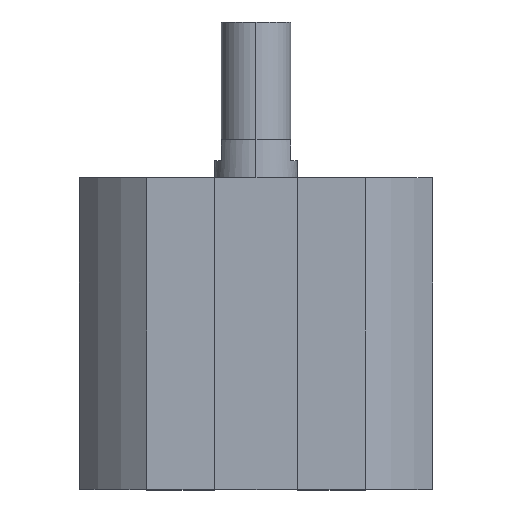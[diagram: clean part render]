
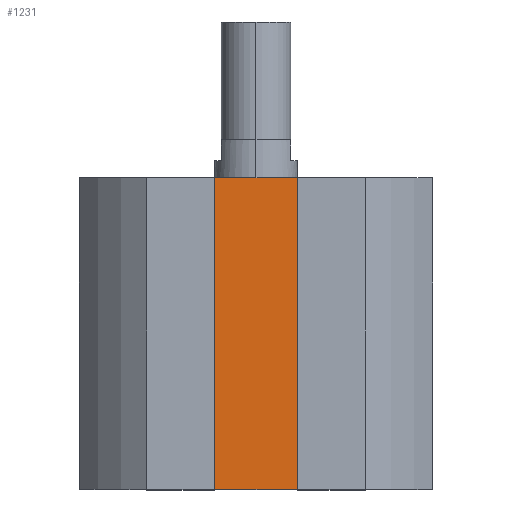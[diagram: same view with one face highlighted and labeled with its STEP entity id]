
A CAD part, top view. The second image highlights one B-rep face of the part: STEP entity #1231.
In plain terms, the highlighted planar face has unit normal (0, 0, 1).
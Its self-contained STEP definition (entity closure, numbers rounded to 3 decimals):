
#131 = VECTOR ( 'NONE', #2257, 1000. ) ;
#155 = DIRECTION ( 'NONE',  ( 1., 0., 0. ) ) ;
#193 = CARTESIAN_POINT ( 'NONE',  ( -7.7, 0., 17. ) ) ;
#255 = ORIENTED_EDGE ( 'NONE', *, *, #2084, .F. ) ;
#332 = DIRECTION ( 'NONE',  ( 1., 0., 0. ) ) ;
#493 = VECTOR ( 'NONE', #1424, 1000. ) ;
#510 = DIRECTION ( 'NONE',  ( 1., 0., 0. ) ) ;
#712 = VERTEX_POINT ( 'NONE', #2530 ) ;
#756 = LINE ( 'NONE', #823, #1437 ) ;
#823 = CARTESIAN_POINT ( 'NONE',  ( 0., -45., 17. ) ) ;
#906 = LINE ( 'NONE', #1286, #1438 ) ;
#909 = VERTEX_POINT ( 'NONE', #2807 ) ;
#964 = CARTESIAN_POINT ( 'NONE',  ( 7.7, -45., 17. ) ) ;
#971 = VERTEX_POINT ( 'NONE', #964 ) ;
#1033 = ORIENTED_EDGE ( 'NONE', *, *, #2074, .F. ) ;
#1231 = ADVANCED_FACE ( 'NONE', ( #2817 ), #1695, .T. ) ;
#1249 = EDGE_CURVE ( 'NONE', #712, #971, #756, .T. ) ;
#1286 = CARTESIAN_POINT ( 'NONE',  ( 0., 0., 17. ) ) ;
#1424 = DIRECTION ( 'NONE',  ( 0., 1., 0. ) ) ;
#1437 = VECTOR ( 'NONE', #332, 1000. ) ;
#1438 = VECTOR ( 'NONE', #155, 1000. ) ;
#1544 = ORIENTED_EDGE ( 'NONE', *, *, #1249, .T. ) ;
#1629 = VERTEX_POINT ( 'NONE', #193 ) ;
#1695 = PLANE ( 'NONE',  #2003 ) ;
#1774 = CARTESIAN_POINT ( 'NONE',  ( -7.7, -45., 17. ) ) ;
#1900 = ORIENTED_EDGE ( 'NONE', *, *, #2923, .T. ) ;
#1903 = CARTESIAN_POINT ( 'NONE',  ( 0., -45., 17. ) ) ;
#1911 = LINE ( 'NONE', #2587, #493 ) ;
#1922 = EDGE_LOOP ( 'NONE', ( #1033, #255, #1544, #1900 ) ) ;
#1988 = LINE ( 'NONE', #1774, #131 ) ;
#2003 = AXIS2_PLACEMENT_3D ( 'NONE', #1903, #2623, #510 ) ;
#2074 = EDGE_CURVE ( 'NONE', #1629, #909, #906, .T. ) ;
#2084 = EDGE_CURVE ( 'NONE', #712, #1629, #1988, .T. ) ;
#2257 = DIRECTION ( 'NONE',  ( 0., 1., 0. ) ) ;
#2530 = CARTESIAN_POINT ( 'NONE',  ( -7.7, -45., 17. ) ) ;
#2587 = CARTESIAN_POINT ( 'NONE',  ( 7.7, -45., 17. ) ) ;
#2623 = DIRECTION ( 'NONE',  ( 0., 0., 1. ) ) ;
#2807 = CARTESIAN_POINT ( 'NONE',  ( 7.7, 0., 17. ) ) ;
#2817 = FACE_OUTER_BOUND ( 'NONE', #1922, .T. ) ;
#2923 = EDGE_CURVE ( 'NONE', #971, #909, #1911, .T. ) ;
